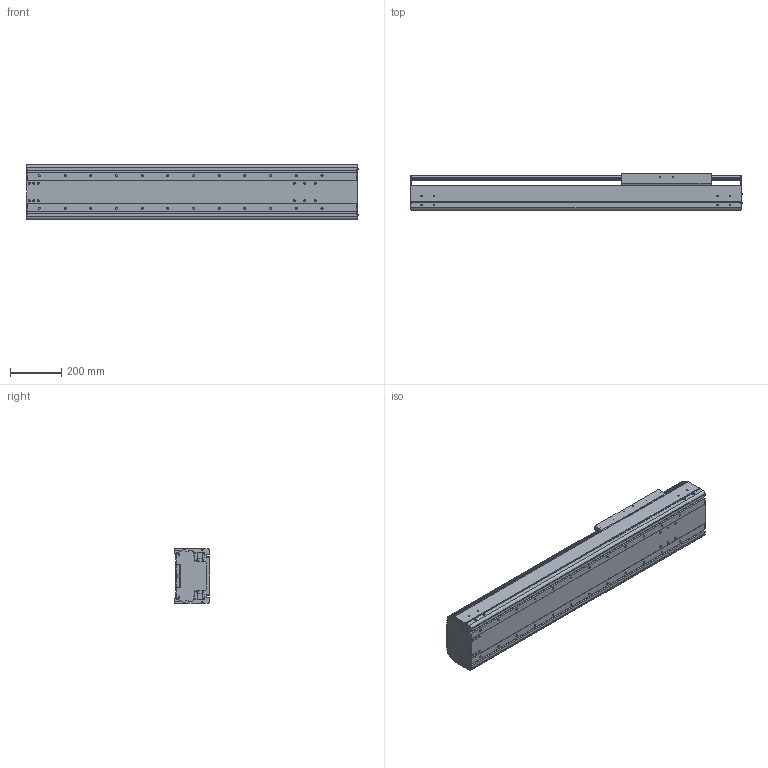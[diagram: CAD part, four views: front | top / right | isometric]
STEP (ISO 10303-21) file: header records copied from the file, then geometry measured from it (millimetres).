
FILE_DESCRIPTION((''),'2;1');
FILE_NAME('BE60J-ST-L_N-75_IGS_PRT','2017-06-18T',(' '),(''),'PRO/ENGINEER BY PARAMETRIC TECHNOLOGY CORPORATION, 2015030','PRO/ENGINEER BY PARAMETRIC TECHNOLOGY CORPORATION, 2015030','');
FILE_SCHEMA(('CONFIG_CONTROL_DESIGN'));
Length unit declared in the file: millimetre
Products named in the file (1): BE60J-ST-L_N-75_IGS_PRT
Bounding box: 1292.4 x 140 x 214 mm (x, y, z)
Volume: 10483873.4 mm3; surface area: 2836569 mm2
Topology: 2 solids, 112 shells, 1429 faces, 3988 edges, 2648 vertices
Faces by surface type: cylinder 728, plane 593, cone 60, sphere 24, torus 24
Entity records: 47882 total; most frequent: CARTESIAN_POINT 10645, DIRECTION 7806, ORIENTED_EDGE 7432, EDGE_CURVE 3932, AXIS2_PLACEMENT_3D 2898, VERTEX_POINT 2648, VECTOR 2010, LINE 2010
